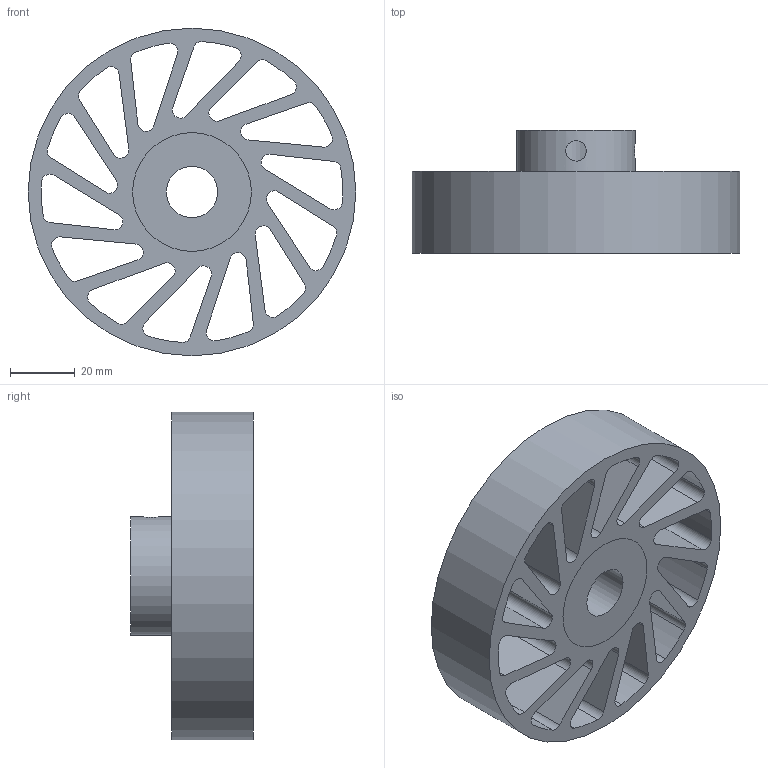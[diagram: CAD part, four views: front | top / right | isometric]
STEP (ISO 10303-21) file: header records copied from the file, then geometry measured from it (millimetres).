
FILE_DESCRIPTION(/* description */ (''),/* implementation_level */ '2;1');
FILE_NAME(/* name */ 'NCW-360-XXX-YYY.stp',/* time_stamp */ '2023-02-02T15:03:31-06:00',/* author */ ('AG'),/* organization */ ('Meridian Laboratory'),/* preprocessor_version */ 'ST-DEVELOPER v18.1',/* originating_system */ 'Autodesk Inventor 2022',/* authorisation */ '');
FILE_SCHEMA (('AUTOMOTIVE_DESIGN { 1 0 10303 214 3 1 1 }'));
Length unit declared in the file: inch
Products named in the file (1): NCW-340
Bounding box: 101.6 x 38.1 x 101.6 mm (x, y, z)
Volume: 120762.9 mm3; surface area: 50950.4 mm2
Topology: 2 solids, 2 shells, 94 faces, 276 edges, 186 vertices
Faces by surface type: cylinder 62, plane 32
Full cylindrical faces by diameter (mm): 6.35 x2, 15.9 x1, 36.83 x2, 101.6 x1
Entity records: 3530 total; most frequent: CARTESIAN_POINT 697, DIRECTION 576, ORIENTED_EDGE 552, EDGE_CURVE 276, AXIS2_PLACEMENT_3D 215, VERTEX_POINT 186, LINE 146, VECTOR 146
